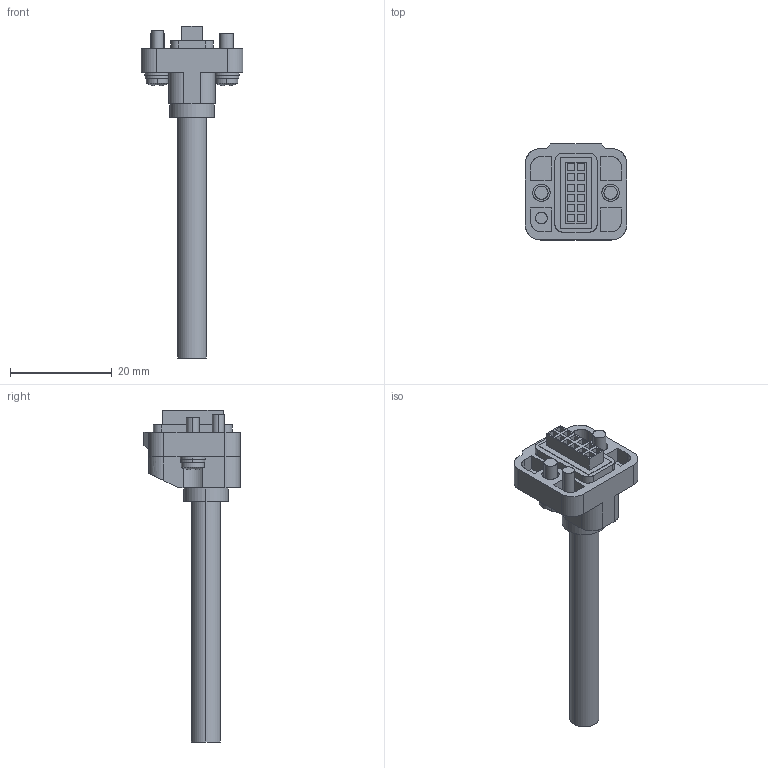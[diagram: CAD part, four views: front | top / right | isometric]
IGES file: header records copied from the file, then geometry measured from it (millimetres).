
Start section: SolidWorks IGES file using analytic representation for surfaces
Bounding box: 20 x 18.9 x 65.35 mm (x, y, z)
Surface area: 3207.1 mm2 (no closed solid volume)
Topology: 0 solids, 0 shells, 198 faces, 1992 edges, 1992 vertices
Faces by surface type: bspline 153, revolution 45
